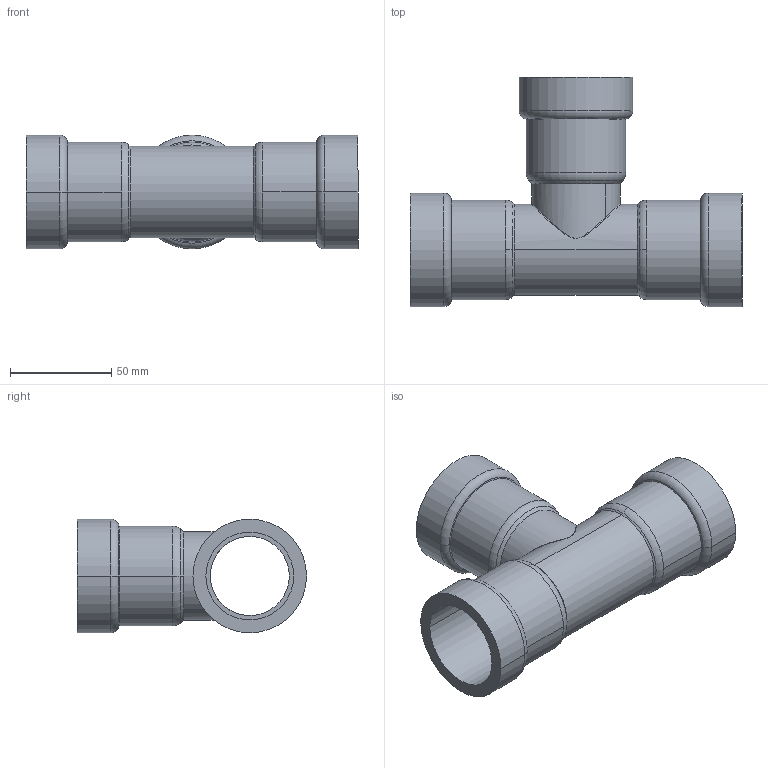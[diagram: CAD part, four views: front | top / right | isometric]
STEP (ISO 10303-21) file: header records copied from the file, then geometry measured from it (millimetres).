
FILE_DESCRIPTION(('Creo Elements/Direct Modeling STEP Export'),'2;1');
FILE_NAME('C9414_1-1-4.stp','2020-07-14T16:40:08',(''),(''),'PTC Creo Elements/Direct Modeling STEP processor for AP214 (Solid Model)','PTC Creo Elements/Direct Modeling 19.0C 15-Aug-2015 (C) Parametric Technology GmbH','');
FILE_SCHEMA(('AUTOMOTIVE_DESIGN { 1 0 10303 214 1 1 1 1 }'));
Length unit declared in the file: millimetre
Products named in the file (2): 9414_1-1-4
Assembly tree (1 placements, depth 2):
  9414_1-1-4
    9414_1-1-4
Bounding box: 163.66 x 112.95 x 56 mm (x, y, z)
Volume: 124048.3 mm3; surface area: 68576.2 mm2
Topology: 1 solids, 1 shells, 60 faces, 144 edges, 90 vertices
Faces by surface type: cylinder 26, torus 12, cone 12, plane 6, bspline 4
Entity records: 7291 total; most frequent: CARTESIAN_POINT 6012, ORIENTED_EDGE 288, DIRECTION 238, EDGE_CURVE 144, AXIS2_PLACEMENT_3D 100, VERTEX_POINT 90, EDGE_LOOP 68, FACE_OUTER_BOUND 60
